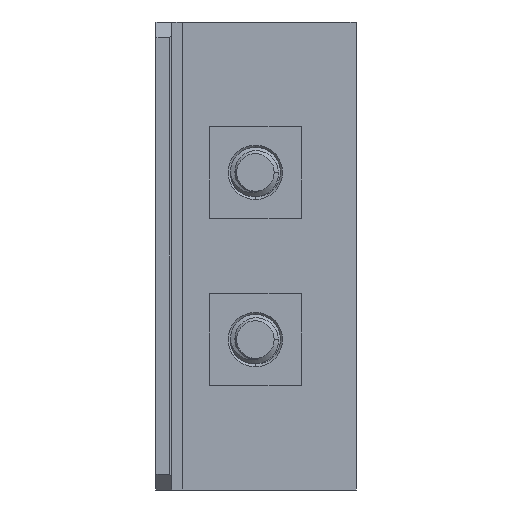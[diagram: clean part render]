
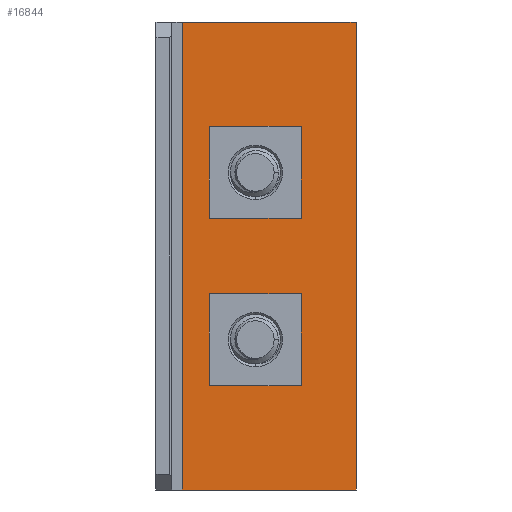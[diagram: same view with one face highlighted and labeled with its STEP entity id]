
A CAD part, front view. The second image highlights one B-rep face of the part: STEP entity #16844.
In plain terms, the highlighted planar face has unit normal (0, -1, 0).
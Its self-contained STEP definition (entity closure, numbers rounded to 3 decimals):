
#367 = PLANE ( 'NONE',  #12084 ) ;
#382 = EDGE_CURVE ( 'NONE', #8585, #13859, #15398, .T. ) ;
#645 = EDGE_CURVE ( 'NONE', #5888, #8618, #3033, .T. ) ;
#735 = DIRECTION ( 'NONE',  ( 1., 0., 0. ) ) ;
#840 = CIRCLE ( 'NONE', #15304, 4.5 ) ;
#1461 = CARTESIAN_POINT ( 'NONE',  ( 35., 0., 44.45 ) ) ;
#1479 = CIRCLE ( 'NONE', #5202, 4.5 ) ;
#1550 = VERTEX_POINT ( 'NONE', #3344 ) ;
#1744 = CARTESIAN_POINT ( 'NONE',  ( 15.88, 0., 15.875 ) ) ;
#1814 = CARTESIAN_POINT ( 'NONE',  ( 2., 0., -44.45 ) ) ;
#1948 = EDGE_CURVE ( 'NONE', #16347, #5888, #12445, .T. ) ;
#2186 = EDGE_LOOP ( 'NONE', ( #8924, #10591, #13618, #11212 ) ) ;
#2199 = DIRECTION ( 'NONE',  ( -1., 0., 0. ) ) ;
#2393 = FACE_OUTER_BOUND ( 'NONE', #2186, .T. ) ;
#2758 = DIRECTION ( 'NONE',  ( 0., 0., -1. ) ) ;
#2991 = CARTESIAN_POINT ( 'NONE',  ( 15.88, 0., -20.375 ) ) ;
#3033 = LINE ( 'NONE', #12664, #5937 ) ;
#3114 = CIRCLE ( 'NONE', #7677, 4.5 ) ;
#3185 = DIRECTION ( 'NONE',  ( -1., 0., 0. ) ) ;
#3344 = CARTESIAN_POINT ( 'NONE',  ( 15.88, 0., 20.375 ) ) ;
#3891 = VECTOR ( 'NONE', #10043, 1000. ) ;
#3903 = CARTESIAN_POINT ( 'NONE',  ( 15.88, 0., -15.875 ) ) ;
#4859 = VECTOR ( 'NONE', #2758, 1000. ) ;
#5202 = AXIS2_PLACEMENT_3D ( 'NONE', #5547, #15605, #6994 ) ;
#5273 = ORIENTED_EDGE ( 'NONE', *, *, #6788, .T. ) ;
#5547 = CARTESIAN_POINT ( 'NONE',  ( 15.88, 0., -15.875 ) ) ;
#5888 = VERTEX_POINT ( 'NONE', #12547 ) ;
#5937 = VECTOR ( 'NONE', #13885, 1000. ) ;
#6019 = AXIS2_PLACEMENT_3D ( 'NONE', #3903, #9106, #2199 ) ;
#6106 = DIRECTION ( 'NONE',  ( 0., 1., 0. ) ) ;
#6395 = CARTESIAN_POINT ( 'NONE',  ( 35., 0., -44.45 ) ) ;
#6715 = EDGE_CURVE ( 'NONE', #16347, #8660, #16323, .T. ) ;
#6788 = EDGE_CURVE ( 'NONE', #8206, #1550, #3114, .T. ) ;
#6947 = VECTOR ( 'NONE', #735, 1000. ) ;
#6994 = DIRECTION ( 'NONE',  ( -1., 0., 0. ) ) ;
#7594 = EDGE_LOOP ( 'NONE', ( #18585, #11960 ) ) ;
#7677 = AXIS2_PLACEMENT_3D ( 'NONE', #16371, #7758, #17814 ) ;
#7758 = DIRECTION ( 'NONE',  ( 0., 1., 0. ) ) ;
#8206 = VERTEX_POINT ( 'NONE', #13353 ) ;
#8585 = VERTEX_POINT ( 'NONE', #2991 ) ;
#8618 = VERTEX_POINT ( 'NONE', #8840 ) ;
#8660 = VERTEX_POINT ( 'NONE', #1814 ) ;
#8840 = CARTESIAN_POINT ( 'NONE',  ( 35., 0., -44.45 ) ) ;
#8924 = ORIENTED_EDGE ( 'NONE', *, *, #13224, .T. ) ;
#8948 = ORIENTED_EDGE ( 'NONE', *, *, #9857, .T. ) ;
#9106 = DIRECTION ( 'NONE',  ( 0., 1., 0. ) ) ;
#9567 = FACE_BOUND ( 'NONE', #7594, .T. ) ;
#9857 = EDGE_CURVE ( 'NONE', #1550, #8206, #840, .T. ) ;
#10043 = DIRECTION ( 'NONE',  ( 1., 0., 0. ) ) ;
#10462 = FACE_BOUND ( 'NONE', #13370, .T. ) ;
#10591 = ORIENTED_EDGE ( 'NONE', *, *, #645, .F. ) ;
#10780 = LINE ( 'NONE', #6395, #6947 ) ;
#11073 = EDGE_CURVE ( 'NONE', #13859, #8585, #1479, .T. ) ;
#11108 = CARTESIAN_POINT ( 'NONE',  ( 2., 0., 44.45 ) ) ;
#11212 = ORIENTED_EDGE ( 'NONE', *, *, #6715, .T. ) ;
#11777 = DIRECTION ( 'NONE',  ( 0., 1., 0. ) ) ;
#11960 = ORIENTED_EDGE ( 'NONE', *, *, #382, .T. ) ;
#12084 = AXIS2_PLACEMENT_3D ( 'NONE', #14700, #6106, #16169 ) ;
#12445 = LINE ( 'NONE', #1461, #3891 ) ;
#12547 = CARTESIAN_POINT ( 'NONE',  ( 35., 0., 44.45 ) ) ;
#12664 = CARTESIAN_POINT ( 'NONE',  ( 35., 0., 44.45 ) ) ;
#13224 = EDGE_CURVE ( 'NONE', #8660, #8618, #10780, .T. ) ;
#13353 = CARTESIAN_POINT ( 'NONE',  ( 15.88, 0., 11.375 ) ) ;
#13370 = EDGE_LOOP ( 'NONE', ( #8948, #5273 ) ) ;
#13618 = ORIENTED_EDGE ( 'NONE', *, *, #1948, .F. ) ;
#13859 = VERTEX_POINT ( 'NONE', #15449 ) ;
#13885 = DIRECTION ( 'NONE',  ( 0., 0., -1. ) ) ;
#14700 = CARTESIAN_POINT ( 'NONE',  ( 35., 0., 44.45 ) ) ;
#15304 = AXIS2_PLACEMENT_3D ( 'NONE', #1744, #11777, #3185 ) ;
#15398 = CIRCLE ( 'NONE', #6019, 4.5 ) ;
#15449 = CARTESIAN_POINT ( 'NONE',  ( 15.88, 0., -11.375 ) ) ;
#15605 = DIRECTION ( 'NONE',  ( 0., 1., 0. ) ) ;
#16130 = CARTESIAN_POINT ( 'NONE',  ( 2., 0., 44.45 ) ) ;
#16169 = DIRECTION ( 'NONE',  ( -1., 0., 0. ) ) ;
#16323 = LINE ( 'NONE', #11108, #4859 ) ;
#16347 = VERTEX_POINT ( 'NONE', #16130 ) ;
#16371 = CARTESIAN_POINT ( 'NONE',  ( 15.88, 0., 15.875 ) ) ;
#16844 = ADVANCED_FACE ( 'NONE', ( #10462, #9567, #2393 ), #367, .F. ) ;
#17814 = DIRECTION ( 'NONE',  ( -1., 0., 0. ) ) ;
#18585 = ORIENTED_EDGE ( 'NONE', *, *, #11073, .T. ) ;
